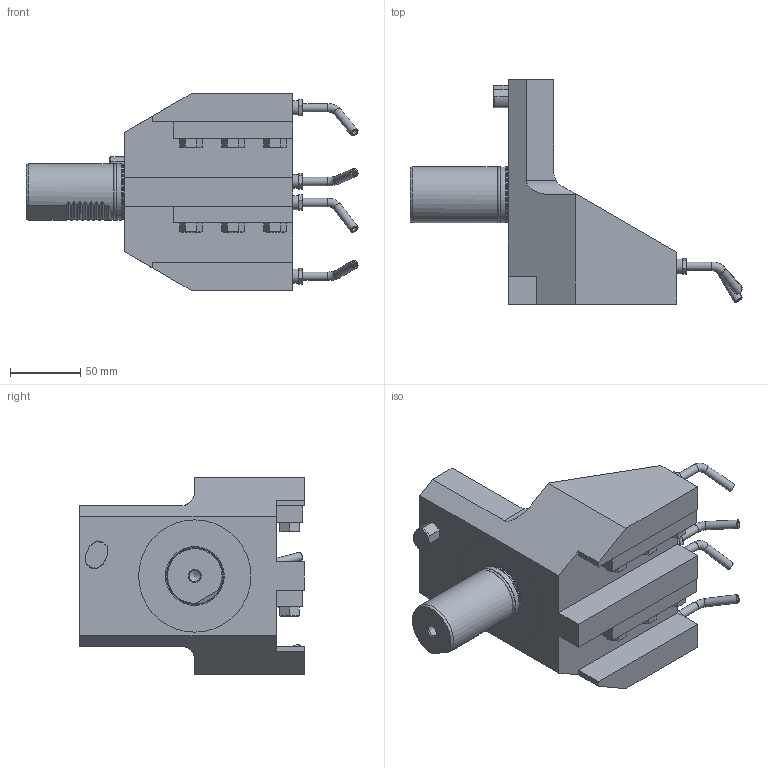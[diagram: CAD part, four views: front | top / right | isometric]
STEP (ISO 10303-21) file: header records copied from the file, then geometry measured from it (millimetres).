
FILE_DESCRIPTION(/* description */ (''),/* implementation_level */ '2;1');
FILE_NAME(/* name */ '169641-UNI',/* time_stamp */ '2021-11-19T10:49:42+01:00',/* author */ (''),/* organization */ (''),/* preprocessor_version */ 'ST-DEVELOPER v16.5',/* originating_system */ 'HiCAD 2017 2201.0 Build 268',/* authorisation */ '');
FILE_SCHEMA (('AUTOMOTIVE_DESIGN { 1 0 10303 214 1 1 1 1 }'));
Length unit declared in the file: millimetre
Products named in the file (2): Root; Teil
Assembly tree (1 placements, depth 2):
  Root
    Teil
Bounding box: 236.53 x 160 x 140 mm (x, y, z)
Volume: 1218532.7 mm3; surface area: 108050.3 mm2
Topology: 1 solids, 2 shells, 259 faces, 646 edges, 411 vertices
Faces by surface type: plane 143, torus 62, cylinder 39, cone 15
Full cylindrical faces by diameter (mm): 4 x8, 6 x8, 8 x1, 10 x4, 36.7 x1, 39.6 x1, 40 x2, 80 x2
Entity records: 18625 total; most frequent: CARTESIAN_POINT 7359, DIRECTION 1173, PRESENTATION_STYLE_ASSIGNMENT 1127, COLOUR_RGB 1127, DRAUGHTING_PRE_DEFINED_CURVE_FONT 1126, CURVE_STYLE 1126, OVER_RIDING_STYLED_ITEM 1126, ORIENTED_EDGE 1126
